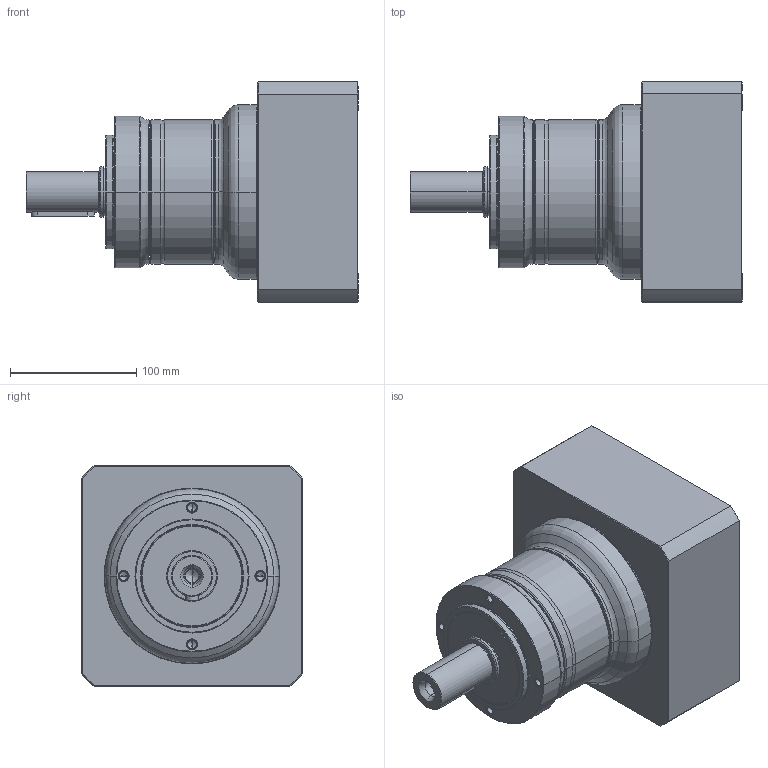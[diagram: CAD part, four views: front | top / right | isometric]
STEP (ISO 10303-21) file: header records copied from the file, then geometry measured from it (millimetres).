
FILE_DESCRIPTION((''),'2;1');
FILE_NAME('PE2-120_1ST_38-P0411900101_ASM','2016-04-26T',('d00435'),(''),'PRO/ENGINEER BY PARAMETRIC TECHNOLOGY CORPORATION, 2008410','PRO/ENGINEER BY PARAMETRIC TECHNOLOGY CORPORATION, 2008410','');
FILE_SCHEMA(('CONFIG_CONTROL_DESIGN'));
Length unit declared in the file: millimetre
Products named in the file (9): P1323410001; P0250400001; P1324400501; P0350401001; P0941405001; P0503900010; P0411900101; P1702600001; PE2-120_1ST_38-P0411900101_ASM
Assembly tree (8 placements, depth 2):
  PE2-120_1ST_38-P0411900101_ASM
    P1323410001
    P0250400001
    P1324400501
    P0350401001
    P0941405001
    P0503900010
    P0411900101
    P1702600001
Bounding box: 262.5 x 174 x 174 mm (x, y, z)
Volume: 2964427.5 mm3; surface area: 354633.8 mm2
Topology: 8 solids, 22 shells, 524 faces, 1171 edges, 692 vertices
Faces by surface type: cylinder 166, cone 144, torus 102, plane 96, bspline 16
Entity records: 19283 total; most frequent: CARTESIAN_POINT 7303, DIRECTION 2761, ORIENTED_EDGE 2214, AXIS2_PLACEMENT_3D 1194, EDGE_CURVE 1135, VERTEX_POINT 692, CIRCLE 659, EDGE_LOOP 605
